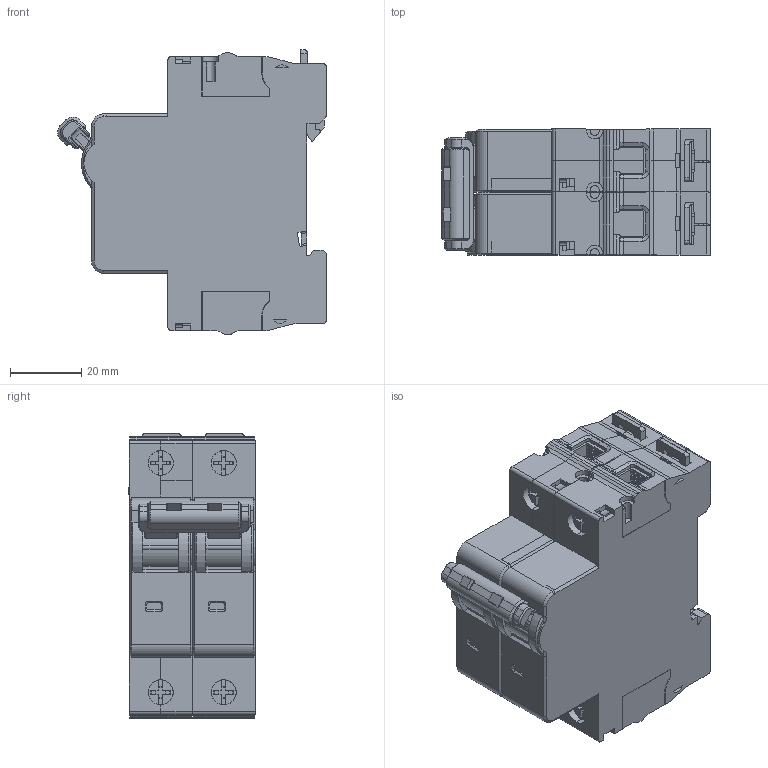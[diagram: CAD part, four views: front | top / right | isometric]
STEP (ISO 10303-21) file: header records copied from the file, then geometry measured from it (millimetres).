
FILE_DESCRIPTION((''),'2;1');
FILE_NAME('2255008100_ASM_SW0001','2019-10-15T',('gang.wang'),(''),'PRO/ENGINEER BY PARAMETRIC TECHNOLOGY CORPORATION, 2015440','PRO/ENGINEER BY PARAMETRIC TECHNOLOGY CORPORATION, 2015440','');
FILE_SCHEMA(('CONFIG_CONTROL_DESIGN'));
Products named in the file (1): 2255008100_ASM_SW0001
Bounding box: 75.51 x 35.55 x 79.9 mm (x, y, z)
Volume: 131264.4 mm3; surface area: 51031.9 mm2
Topology: 1 solids, 11 shells, 4620 faces, 13034 edges, 8586 vertices
Faces by surface type: plane 3160, cylinder 824, extrusion 433, cone 135, torus 27, bspline 24, sphere 17
Entity records: 152042 total; most frequent: CARTESIAN_POINT 32969, ORIENTED_EDGE 26034, DIRECTION 22523, EDGE_CURVE 13017, VECTOR 10319, LINE 9886, VERTEX_POINT 8586, AXIS2_PLACEMENT_3D 6102
